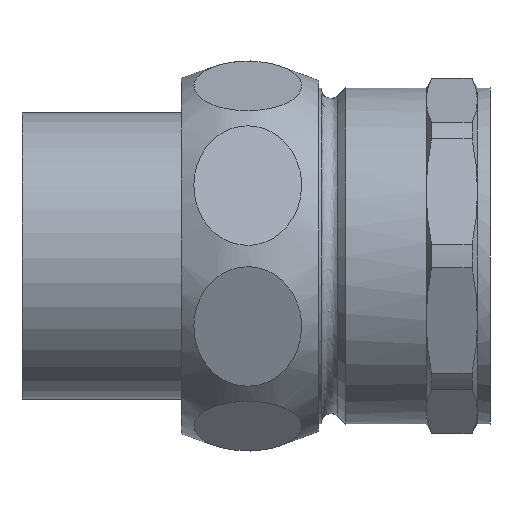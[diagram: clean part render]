
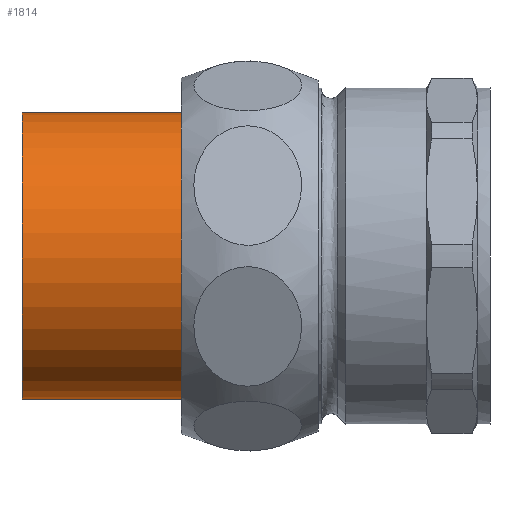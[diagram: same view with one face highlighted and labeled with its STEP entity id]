
A CAD part, front view. The second image highlights one B-rep face of the part: STEP entity #1814.
In plain terms, the highlighted cylindrical face has radius 22.95 mm (diameter 45.9 mm), a full revolution.
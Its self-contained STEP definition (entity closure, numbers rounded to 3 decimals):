
#1763=CARTESIAN_POINT('',(-12.,22.95,0.));
#1764=VERTEX_POINT('',#1763);
#1765=CARTESIAN_POINT('',(-12.,0.,0.0));
#1766=DIRECTION('',(-1.0,0.0,0.0));
#1767=DIRECTION('',(0.0,-1.0,0.0));
#1768=AXIS2_PLACEMENT_3D('',#1765,#1766,#1767);
#1769=CIRCLE('',#1768,22.95);
#1770=EDGE_CURVE('',#1764,#1764,#1769,.T.);
#1795=CARTESIAN_POINT('',(2.,0.,0.0));
#1796=DIRECTION('',(1.0,0.,0.0));
#1797=DIRECTION('',(0.0,1.0,0.0));
#1798=AXIS2_PLACEMENT_3D('',#1795,#1796,#1797);
#1799=CYLINDRICAL_SURFACE('',#1798,22.95);
#1800=CARTESIAN_POINT('',(17.,22.95,0.0));
#1801=VERTEX_POINT('',#1800);
#1802=CARTESIAN_POINT('',(17.0,0.,0.0));
#1803=DIRECTION('',(1.0,0.0,0.0));
#1804=DIRECTION('',(0.0,1.0,0.0));
#1805=AXIS2_PLACEMENT_3D('',#1802,#1803,#1804);
#1806=CIRCLE('',#1805,22.95);
#1807=EDGE_CURVE('',#1801,#1801,#1806,.T.);
#1808=ORIENTED_EDGE('',*,*,#1807,.F.);
#1809=EDGE_LOOP('',(#1808));
#1810=FACE_OUTER_BOUND('',#1809,.T.);
#1811=ORIENTED_EDGE('',*,*,#1770,.F.);
#1812=EDGE_LOOP('',(#1811));
#1813=FACE_BOUND('',#1812,.T.);
#1814=ADVANCED_FACE('',(#1810,#1813),#1799,.T.);
